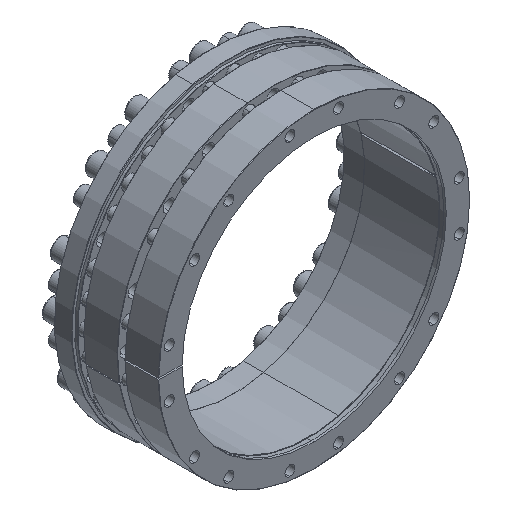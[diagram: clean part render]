
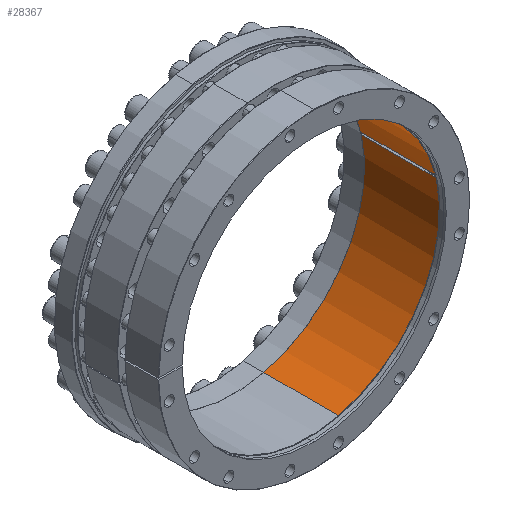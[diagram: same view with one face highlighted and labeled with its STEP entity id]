
A CAD part, isometric view. The second image highlights one B-rep face of the part: STEP entity #28367.
In plain terms, the highlighted cylindrical face has radius 230 mm (diameter 460 mm), a partial arc.
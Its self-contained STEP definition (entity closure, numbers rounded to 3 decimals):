
#1586 = CARTESIAN_POINT ( 'NONE',  ( 224.215, 11.004, 51.258 ) ) ;
#1602 = VECTOR ( 'NONE', #27896, 1000. ) ;
#1670 = CARTESIAN_POINT ( 'NONE',  ( 53.692, 11.004, -223.645 ) ) ;
#2334 = DIRECTION ( 'NONE',  ( 0.233, 0., -0.972 ) ) ;
#2884 = VECTOR ( 'NONE', #33164, 1000. ) ;
#2906 = EDGE_CURVE ( 'NONE', #13009, #26790, #10116, .T. ) ;
#4898 = CIRCLE ( 'NONE', #25401, 230. ) ;
#6785 = EDGE_CURVE ( 'NONE', #48044, #13009, #25068, .T. ) ;
#6904 = CARTESIAN_POINT ( 'NONE',  ( 223.048, 141.504, 56.12 ) ) ;
#6971 = CARTESIAN_POINT ( 'NONE',  ( 53.692, 11.004, -223.645 ) ) ;
#7044 = DIRECTION ( 'NONE',  ( 0., -1., 0. ) ) ;
#7110 = CARTESIAN_POINT ( 'NONE',  ( 224.215, 141.504, 51.258 ) ) ;
#8052 = AXIS2_PLACEMENT_3D ( 'NONE', #47447, #24863, #2334 ) ;
#9434 = DIRECTION ( 'NONE',  ( 0., -1., 0. ) ) ;
#9708 = ORIENTED_EDGE ( 'NONE', *, *, #2906, .T. ) ;
#10116 = CIRCLE ( 'NONE', #10247, 230. ) ;
#10247 = AXIS2_PLACEMENT_3D ( 'NONE', #29567, #7044, #33353 ) ;
#13009 = VERTEX_POINT ( 'NONE', #18602 ) ;
#13019 = DIRECTION ( 'NONE',  ( 0., -1., 0. ) ) ;
#13787 = CARTESIAN_POINT ( 'NONE',  ( 53.692, 142.004, -223.645 ) ) ;
#14082 = LINE ( 'NONE', #18103, #2884 ) ;
#14622 = EDGE_CURVE ( 'NONE', #37280, #26790, #14082, .T. ) ;
#14648 = ORIENTED_EDGE ( 'NONE', *, *, #6785, .T. ) ;
#15086 = VECTOR ( 'NONE', #19028, 1000. ) ;
#15221 = CARTESIAN_POINT ( 'NONE',  ( 223.048, 11.004, 56.12 ) ) ;
#15933 = EDGE_CURVE ( 'NONE', #32181, #48044, #4898, .T. ) ;
#18103 = CARTESIAN_POINT ( 'NONE',  ( -53.692, 11.004, 223.645 ) ) ;
#18602 = CARTESIAN_POINT ( 'NONE',  ( 223.048, 11.004, 56.12 ) ) ;
#19028 = DIRECTION ( 'NONE',  ( 0., -1., 0. ) ) ;
#19201 = CARTESIAN_POINT ( 'NONE',  ( 0., 141.504, 0. ) ) ;
#21016 = FACE_OUTER_BOUND ( 'NONE', #40803, .T. ) ;
#21293 = VERTEX_POINT ( 'NONE', #42208 ) ;
#21644 = LINE ( 'NONE', #1586, #1602 ) ;
#22077 = AXIS2_PLACEMENT_3D ( 'NONE', #25561, #33464, #26047 ) ;
#22463 = EDGE_CURVE ( 'NONE', #21293, #32181, #21644, .T. ) ;
#22740 = VERTEX_POINT ( 'NONE', #6971 ) ;
#22949 = DIRECTION ( 'NONE',  ( -0.233, 0., 0.972 ) ) ;
#24537 = EDGE_CURVE ( 'NONE', #22740, #21293, #37150, .T. ) ;
#24863 = DIRECTION ( 'NONE',  ( 0., -1., 0. ) ) ;
#24963 = AXIS2_PLACEMENT_3D ( 'NONE', #31981, #9434, #35772 ) ;
#25068 = LINE ( 'NONE', #15221, #15086 ) ;
#25115 = EDGE_CURVE ( 'NONE', #31506, #22740, #41770, .T. ) ;
#25401 = AXIS2_PLACEMENT_3D ( 'NONE', #19201, #45497, #22949 ) ;
#25561 = CARTESIAN_POINT ( 'NONE',  ( 0., 11.004, 0. ) ) ;
#26047 = DIRECTION ( 'NONE',  ( 0.233, 0., -0.972 ) ) ;
#26790 = VERTEX_POINT ( 'NONE', #27738 ) ;
#27189 = ORIENTED_EDGE ( 'NONE', *, *, #22463, .T. ) ;
#27738 = CARTESIAN_POINT ( 'NONE',  ( -53.692, 11.004, 223.645 ) ) ;
#27896 = DIRECTION ( 'NONE',  ( 0., 1., 0. ) ) ;
#28137 = ORIENTED_EDGE ( 'NONE', *, *, #14622, .F. ) ;
#28367 = ADVANCED_FACE ( 'NONE', ( #21016 ), #46331, .F. ) ;
#28510 = ORIENTED_EDGE ( 'NONE', *, *, #30845, .F. ) ;
#28852 = CIRCLE ( 'NONE', #8052, 230. ) ;
#29567 = CARTESIAN_POINT ( 'NONE',  ( 0., 11.004, 0. ) ) ;
#30845 = EDGE_CURVE ( 'NONE', #31506, #37280, #28852, .T. ) ;
#31506 = VERTEX_POINT ( 'NONE', #13787 ) ;
#31737 = VECTOR ( 'NONE', #13019, 1000. ) ;
#31981 = CARTESIAN_POINT ( 'NONE',  ( 0., 11.004, 0. ) ) ;
#32181 = VERTEX_POINT ( 'NONE', #7110 ) ;
#33164 = DIRECTION ( 'NONE',  ( 0., -1., 0. ) ) ;
#33353 = DIRECTION ( 'NONE',  ( 0.233, 0., -0.972 ) ) ;
#33464 = DIRECTION ( 'NONE',  ( 0., -1., 0. ) ) ;
#35772 = DIRECTION ( 'NONE',  ( 0.233, 0., -0.972 ) ) ;
#37150 = CIRCLE ( 'NONE', #24963, 230. ) ;
#37280 = VERTEX_POINT ( 'NONE', #41343 ) ;
#38405 = ORIENTED_EDGE ( 'NONE', *, *, #15933, .T. ) ;
#40803 = EDGE_LOOP ( 'NONE', ( #28137, #28510, #45907, #48806, #27189, #38405, #14648, #9708 ) ) ;
#41343 = CARTESIAN_POINT ( 'NONE',  ( -53.692, 142.004, 223.645 ) ) ;
#41770 = LINE ( 'NONE', #1670, #31737 ) ;
#42208 = CARTESIAN_POINT ( 'NONE',  ( 224.215, 11.004, 51.258 ) ) ;
#45497 = DIRECTION ( 'NONE',  ( 0., -1., 0. ) ) ;
#45907 = ORIENTED_EDGE ( 'NONE', *, *, #25115, .T. ) ;
#46331 = CYLINDRICAL_SURFACE ( 'NONE', #22077, 230. ) ;
#47447 = CARTESIAN_POINT ( 'NONE',  ( 0., 142.004, 0. ) ) ;
#48044 = VERTEX_POINT ( 'NONE', #6904 ) ;
#48806 = ORIENTED_EDGE ( 'NONE', *, *, #24537, .T. ) ;
